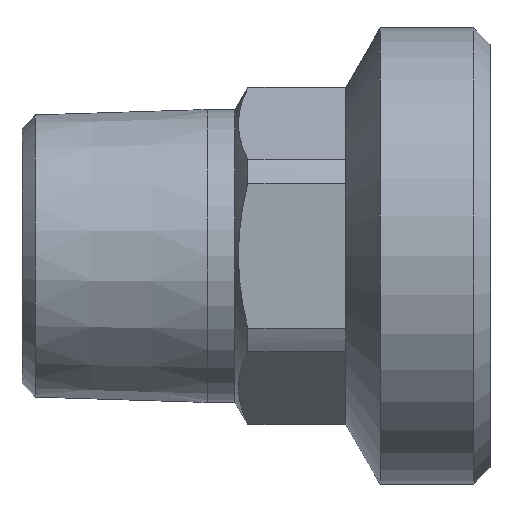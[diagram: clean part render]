
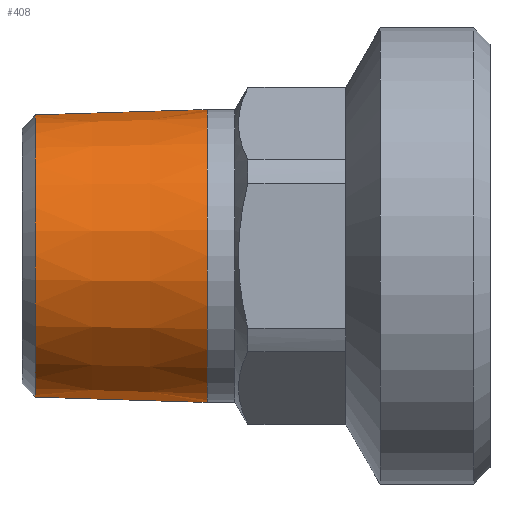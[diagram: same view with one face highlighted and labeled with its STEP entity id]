
A CAD part, top view. The second image highlights one B-rep face of the part: STEP entity #408.
In plain terms, the highlighted conical face has half-angle 1.78 degrees and reference radius 13.189 mm.
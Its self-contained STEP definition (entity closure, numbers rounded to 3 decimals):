
#91=CARTESIAN_POINT('',(17.0,13.453,0.0));
#92=VERTEX_POINT('',#91);
#101=CARTESIAN_POINT('',(17.0,-13.453,0.));
#102=VERTEX_POINT('',#101);
#103=CARTESIAN_POINT('',(17.0,0.0,0.0));
#104=DIRECTION('',(1.0,0.0,0.0));
#105=DIRECTION('',(0.0,1.0,0.0));
#106=AXIS2_PLACEMENT_3D('',#103,#104,#105);
#107=CIRCLE('',#106,13.453);
#108=EDGE_CURVE('',#92,#102,#107,.T.);
#377=CARTESIAN_POINT('',(8.5,0.0,0.0));
#378=DIRECTION('',(1.0,0.0,0.0));
#379=DIRECTION('',(0.0,1.0,0.0));
#380=AXIS2_PLACEMENT_3D('',#377,#378,#379);
#381=CONICAL_SURFACE('',#380,13.189,1.78);
#382=CARTESIAN_POINT('',(1.199,12.962,0.));
#383=VERTEX_POINT('',#382);
#384=CARTESIAN_POINT('',(1.199,12.962,0.));
#385=DIRECTION('',(1.,0.031,0.));
#386=VECTOR('',#385,15.808);
#387=LINE('',#384,#386);
#388=EDGE_CURVE('',#383,#92,#387,.T.);
#389=ORIENTED_EDGE('',*,*,#388,.F.);
#390=CARTESIAN_POINT('',(1.199,-12.962,0.));
#391=VERTEX_POINT('',#390);
#392=CARTESIAN_POINT('',(1.199,0.0,0.));
#393=DIRECTION('',(-1.0,0.0,0.0));
#394=DIRECTION('',(0.0,-1.0,0.0));
#395=AXIS2_PLACEMENT_3D('',#392,#393,#394);
#396=CIRCLE('',#395,12.962);
#397=EDGE_CURVE('',#391,#383,#396,.T.);
#398=ORIENTED_EDGE('',*,*,#397,.F.);
#399=CARTESIAN_POINT('',(17.0,-13.453,0.));
#400=DIRECTION('',(-1.,0.031,0.));
#401=VECTOR('',#400,15.808);
#402=LINE('',#399,#401);
#403=EDGE_CURVE('',#102,#391,#402,.T.);
#404=ORIENTED_EDGE('',*,*,#403,.F.);
#405=ORIENTED_EDGE('',*,*,#108,.F.);
#406=EDGE_LOOP('',(#389,#398,#404,#405));
#407=FACE_OUTER_BOUND('',#406,.T.);
#408=ADVANCED_FACE('',(#407),#381,.T.);
